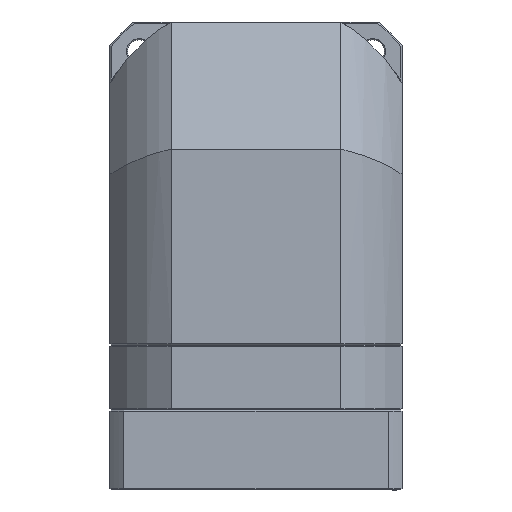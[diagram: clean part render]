
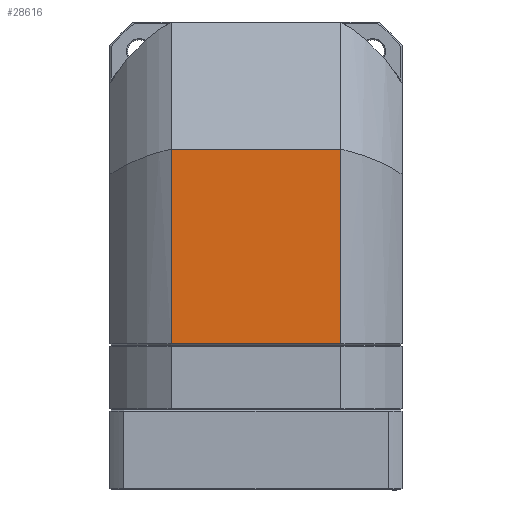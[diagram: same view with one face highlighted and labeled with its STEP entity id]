
A CAD part, front view. The second image highlights one B-rep face of the part: STEP entity #28616.
In plain terms, the highlighted planar face has unit normal (0, 1, 0).
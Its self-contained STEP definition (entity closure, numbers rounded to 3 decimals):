
#3929 = FACE_OUTER_BOUND ( 'NONE', #63033, .T. ) ;
#3973 = ORIENTED_EDGE ( 'NONE', *, *, #33938, .T. ) ;
#4646 = LINE ( 'NONE', #30630, #44495 ) ;
#6602 = DIRECTION ( 'NONE',  ( 0., 0., -1. ) ) ;
#8038 = CARTESIAN_POINT ( 'NONE',  ( 33.407, -261.111, -69.2 ) ) ;
#8772 = DIRECTION ( 'NONE',  ( 1., 0., 0. ) ) ;
#14448 = EDGE_CURVE ( 'NONE', #61008, #88672, #87702, .T. ) ;
#19274 = VERTEX_POINT ( 'NONE', #27241 ) ;
#21286 = CARTESIAN_POINT ( 'NONE',  ( -33.407, -261.111, -69.2 ) ) ;
#26506 = LINE ( 'NONE', #72839, #47705 ) ;
#26519 = CARTESIAN_POINT ( 'NONE',  ( -33.407, -261.111, -69.2 ) ) ;
#27241 = CARTESIAN_POINT ( 'NONE',  ( 33.407, -261.111, 7.5 ) ) ;
#28616 = ADVANCED_FACE ( 'NONE', ( #3929 ), #97772, .F. ) ;
#30630 = CARTESIAN_POINT ( 'NONE',  ( 33.407, -261.111, -30.62 ) ) ;
#31118 = VECTOR ( 'NONE', #8772, 1000. ) ;
#33938 = EDGE_CURVE ( 'NONE', #19274, #45881, #4646, .T. ) ;
#34529 = DIRECTION ( 'NONE',  ( 1., 0., 0. ) ) ;
#36823 = ORIENTED_EDGE ( 'NONE', *, *, #92002, .T. ) ;
#42908 = VECTOR ( 'NONE', #82002, 1000. ) ;
#44495 = VECTOR ( 'NONE', #6602, 1000. ) ;
#45881 = VERTEX_POINT ( 'NONE', #8038 ) ;
#47705 = VECTOR ( 'NONE', #72482, 1000. ) ;
#48835 = ORIENTED_EDGE ( 'NONE', *, *, #14448, .F. ) ;
#57124 = ORIENTED_EDGE ( 'NONE', *, *, #62097, .F. ) ;
#61008 = VERTEX_POINT ( 'NONE', #77609 ) ;
#62097 = EDGE_CURVE ( 'NONE', #88672, #45881, #26506, .T. ) ;
#62691 = AXIS2_PLACEMENT_3D ( 'NONE', #26519, #82149, #34529 ) ;
#63033 = EDGE_LOOP ( 'NONE', ( #3973, #57124, #48835, #36823 ) ) ;
#72482 = DIRECTION ( 'NONE',  ( 1., 0., 0. ) ) ;
#72839 = CARTESIAN_POINT ( 'NONE',  ( 0., -261.111, -69.2 ) ) ;
#77609 = CARTESIAN_POINT ( 'NONE',  ( -33.407, -261.111, 7.5 ) ) ;
#82002 = DIRECTION ( 'NONE',  ( 0., 0., -1. ) ) ;
#82149 = DIRECTION ( 'NONE',  ( 0., -1., 0. ) ) ;
#87702 = LINE ( 'NONE', #97954, #42908 ) ;
#88672 = VERTEX_POINT ( 'NONE', #21286 ) ;
#92002 = EDGE_CURVE ( 'NONE', #61008, #19274, #92066, .T. ) ;
#92066 = LINE ( 'NONE', #96380, #31118 ) ;
#96380 = CARTESIAN_POINT ( 'NONE',  ( 0., -261.111, 7.5 ) ) ;
#97772 = PLANE ( 'NONE',  #62691 ) ;
#97954 = CARTESIAN_POINT ( 'NONE',  ( -33.407, -261.111, -30.85 ) ) ;
